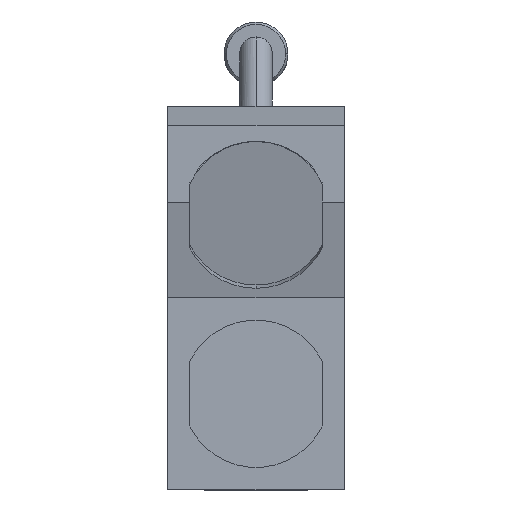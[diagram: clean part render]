
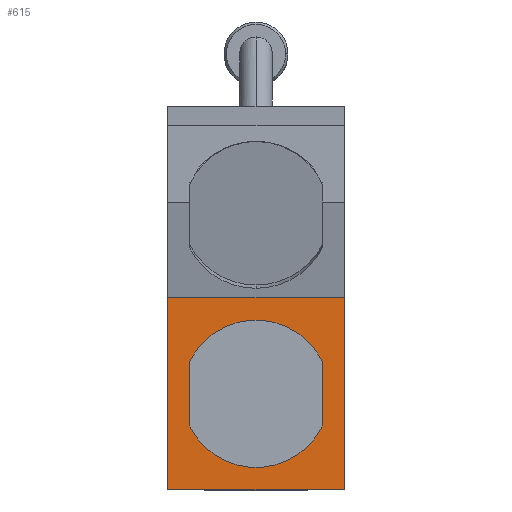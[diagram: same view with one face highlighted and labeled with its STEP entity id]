
A CAD part, top view. The second image highlights one B-rep face of the part: STEP entity #615.
In plain terms, the highlighted planar face has unit normal (0, 0, 1).
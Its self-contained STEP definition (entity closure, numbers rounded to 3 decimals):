
#426 = VERTEX_POINT ( 'NONE', #1558 ) ;
#458 = VERTEX_POINT ( 'NONE', #1571 ) ;
#473 = EDGE_CURVE ( 'NONE', #502, #458, #1612, .T. ) ;
#499 = EDGE_CURVE ( 'NONE', #458, #426, #1681, .T. ) ;
#502 = VERTEX_POINT ( 'NONE', #1671 ) ;
#503 = VERTEX_POINT ( 'NONE', #1670 ) ;
#527 = EDGE_CURVE ( 'NONE', #503, #426, #1712, .T. ) ;
#557 = ORIENTED_EDGE ( 'NONE', *, *, #473, .F. ) ;
#558 = ORIENTED_EDGE ( 'NONE', *, *, #613, .T. ) ;
#559 = ORIENTED_EDGE ( 'NONE', *, *, #527, .T. ) ;
#560 = ORIENTED_EDGE ( 'NONE', *, *, #499, .F. ) ;
#567 = VERTEX_POINT ( 'NONE', #1776 ) ;
#568 = ORIENTED_EDGE ( 'NONE', *, *, #569, .F. ) ;
#569 = EDGE_CURVE ( 'NONE', #570, #619, #1775, .T. ) ;
#570 = VERTEX_POINT ( 'NONE', #1770 ) ;
#571 = ORIENTED_EDGE ( 'NONE', *, *, #572, .F. ) ;
#572 = EDGE_CURVE ( 'NONE', #573, #570, #1769, .T. ) ;
#573 = VERTEX_POINT ( 'NONE', #1765 ) ;
#574 = ORIENTED_EDGE ( 'NONE', *, *, #575, .F. ) ;
#575 = EDGE_CURVE ( 'NONE', #567, #573, #1764, .T. ) ;
#576 = EDGE_LOOP ( 'NONE', ( #557, #558, #559, #560 ) ) ;
#613 = EDGE_CURVE ( 'NONE', #502, #503, #1839, .T. ) ;
#615 = ADVANCED_FACE ( 'NONE', ( #1835, #1834 ), #1833, .F. ) ;
#616 = EDGE_LOOP ( 'NONE', ( #617, #568, #571, #574 ) ) ;
#617 = ORIENTED_EDGE ( 'NONE', *, *, #618, .F. ) ;
#618 = EDGE_CURVE ( 'NONE', #619, #567, #1828, .T. ) ;
#619 = VERTEX_POINT ( 'NONE', #1824 ) ;
#1558 = CARTESIAN_POINT ( 'NONE',  ( -6., 0., -1.5 ) ) ;
#1571 = CARTESIAN_POINT ( 'NONE',  ( 6., 0., -1.5 ) ) ;
#1609 = DIRECTION ( 'NONE',  ( 0., -1., 0. ) ) ;
#1610 = VECTOR ( 'NONE', #1609, 1000. ) ;
#1611 = CARTESIAN_POINT ( 'NONE',  ( 6., 26., -1.5 ) ) ;
#1612 = LINE ( 'NONE', #1611, #1610 ) ;
#1670 = CARTESIAN_POINT ( 'NONE',  ( -6., 13., -1.5 ) ) ;
#1671 = CARTESIAN_POINT ( 'NONE',  ( 6., 13., -1.5 ) ) ;
#1678 = DIRECTION ( 'NONE',  ( -1., 0., 0. ) ) ;
#1679 = VECTOR ( 'NONE', #1678, 1000. ) ;
#1680 = CARTESIAN_POINT ( 'NONE',  ( 63.065, 0., -1.5 ) ) ;
#1681 = LINE ( 'NONE', #1680, #1679 ) ;
#1709 = DIRECTION ( 'NONE',  ( 0., -1., 0. ) ) ;
#1710 = VECTOR ( 'NONE', #1709, 1000. ) ;
#1711 = CARTESIAN_POINT ( 'NONE',  ( -6., 26., -1.5 ) ) ;
#1712 = LINE ( 'NONE', #1711, #1710 ) ;
#1760 = DIRECTION ( 'NONE',  ( 1., 0., 0. ) ) ;
#1761 = DIRECTION ( 'NONE',  ( 0., 0., 1. ) ) ;
#1762 = CARTESIAN_POINT ( 'NONE',  ( 0., 6.5, -1.5 ) ) ;
#1763 = AXIS2_PLACEMENT_3D ( 'NONE', #1762, #1761, #1760 ) ;
#1764 = CIRCLE ( 'NONE', #1763, 5. ) ;
#1765 = CARTESIAN_POINT ( 'NONE',  ( 4.5, 4.321, -1.5 ) ) ;
#1766 = DIRECTION ( 'NONE',  ( 0., 1., 0. ) ) ;
#1767 = VECTOR ( 'NONE', #1766, 1000. ) ;
#1768 = CARTESIAN_POINT ( 'NONE',  ( 4.5, 8.679, -1.5 ) ) ;
#1769 = LINE ( 'NONE', #1768, #1767 ) ;
#1770 = CARTESIAN_POINT ( 'NONE',  ( 4.5, 8.679, -1.5 ) ) ;
#1771 = DIRECTION ( 'NONE',  ( 1., 0., 0. ) ) ;
#1772 = DIRECTION ( 'NONE',  ( 0., 0., 1. ) ) ;
#1773 = CARTESIAN_POINT ( 'NONE',  ( 0., 6.5, -1.5 ) ) ;
#1774 = AXIS2_PLACEMENT_3D ( 'NONE', #1773, #1772, #1771 ) ;
#1775 = CIRCLE ( 'NONE', #1774, 5. ) ;
#1776 = CARTESIAN_POINT ( 'NONE',  ( -4.5, 4.321, -1.5 ) ) ;
#1824 = CARTESIAN_POINT ( 'NONE',  ( -4.5, 8.679, -1.5 ) ) ;
#1825 = DIRECTION ( 'NONE',  ( 0., -1., 0. ) ) ;
#1826 = VECTOR ( 'NONE', #1825, 1000. ) ;
#1827 = CARTESIAN_POINT ( 'NONE',  ( -4.5, 8.679, -1.5 ) ) ;
#1828 = LINE ( 'NONE', #1827, #1826 ) ;
#1829 = DIRECTION ( 'NONE',  ( 0., 1., 0. ) ) ;
#1830 = DIRECTION ( 'NONE',  ( 0., 0., -1. ) ) ;
#1831 = CARTESIAN_POINT ( 'NONE',  ( 63.065, 13., -1.5 ) ) ;
#1832 = AXIS2_PLACEMENT_3D ( 'NONE', #1831, #1830, #1829 ) ;
#1833 = PLANE ( 'NONE',  #1832 ) ;
#1834 = FACE_OUTER_BOUND ( 'NONE', #576, .T. ) ;
#1835 = FACE_BOUND ( 'NONE', #616, .T. ) ;
#1836 = DIRECTION ( 'NONE',  ( -1., 0., 0. ) ) ;
#1837 = VECTOR ( 'NONE', #1836, 1000. ) ;
#1838 = CARTESIAN_POINT ( 'NONE',  ( 63.065, 13., -1.5 ) ) ;
#1839 = LINE ( 'NONE', #1838, #1837 ) ;
